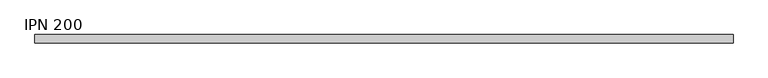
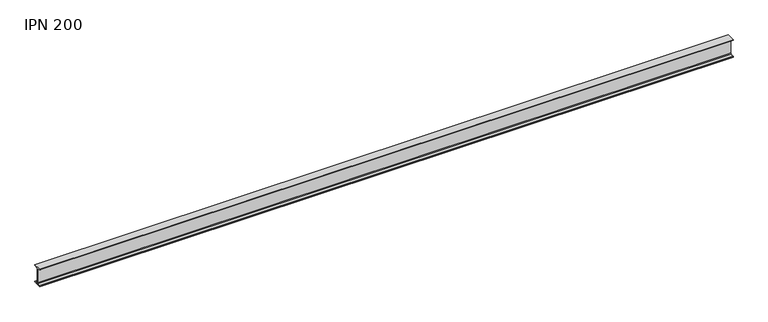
"""IFC4 building model written with IfcOpenShell, lengths in millimetres: beam geometry, IPN - Secciones en I con alas cónicas : IPN 200."""

import ifcopenshell
import ifcopenshell.guid

model = None  # the IFC model being written
_history = None  # IfcOwnerHistory: only IFC2X3 demands one
_inside = {}  # id of a spatial element -> (the spatial element, [elements in it])
_under = {}  # id of a project, library or spatial element -> (it, [spatial elements below it])
_declared = {}  # id of a project -> (the project, [libraries it declares])
_typed = {}  # id of a type object -> (the type object, [elements of that type])
_made_of = {}  # id of a material, layer set ... -> (it, [elements and type objects made of it])


def new_model(schema):
    """Start an empty IFC model of exactly this schema.

    Asked for "IFC4X3", IfcOpenShell would pick the latest addendum, in which some entities
    have other attributes; the version numbers below select the first issue.
    IFC2X3 requires an IfcOwnerHistory on every rooted entity: one is made here for all.
    """
    global model, _history
    if schema == "IFC4X3":
        model = ifcopenshell.file(schema_version=(4, 3, 0, 0))
    else:
        model = ifcopenshell.file(schema=schema)
    _inside.clear()
    _under.clear()
    _declared.clear()
    _typed.clear()
    _made_of.clear()
    _history = None
    if model.schema == "IFC2X3":
        org = make("IfcOrganization", Name="unknown")
        user = make(
            "IfcPersonAndOrganization",
            ThePerson=make("IfcPerson", FamilyName="unknown"),
            TheOrganization=org,
        )
        app = make(
            "IfcApplication",
            ApplicationDeveloper=org,
            Version="unknown",
            ApplicationFullName="unknown",
            ApplicationIdentifier="unknown",
        )
        _history = make(
            "IfcOwnerHistory",
            OwningUser=user,
            OwningApplication=app,
            ChangeAction="ADDED",
            CreationDate=0,
        )
    return model


def make(cls, **values):
    """One entity of the class cls with the attributes given. An attribute that is None is left unset."""
    return model.create_entity(
        cls, **{name: value for name, value in values.items() if value is not None}
    )


def rooted(cls, **values):
    """An entity with a GlobalId (a new one), such as an element, a storey or a relation."""
    return make(cls, GlobalId=ifcopenshell.guid.new(), OwnerHistory=_history, **values)


def si_unit(unit_type, name, prefix=None):
    """IfcSIUnit, for example si_unit("LENGTHUNIT", "METRE", prefix="MILLI")."""
    return make("IfcSIUnit", UnitType=unit_type, Prefix=prefix, Name=name)


def assignment(units):
    """IfcUnitAssignment: the units of a project."""
    return None if units is None else make("IfcUnitAssignment", Units=units)


def point(xyz):
    """IfcCartesianPoint."""
    return None if xyz is None else make("IfcCartesianPoint", Coordinates=xyz)


def direction(xyz):
    """IfcDirection."""
    return None if xyz is None else make("IfcDirection", DirectionRatios=xyz)


def frame(location, z_axis=None, x_axis=None):
    """IfcAxis2Placement3D, a coordinate frame: its origin and axes. An axis left out is left unset."""
    return make(
        "IfcAxis2Placement3D",
        Location=point(location),
        Axis=direction(z_axis),
        RefDirection=direction(x_axis),
    )


def frame_2d(location, x_axis=None):
    """IfcAxis2Placement2D, a coordinate frame in the plane: its origin and x axis."""
    return make(
        "IfcAxis2Placement2D", Location=point(location), RefDirection=direction(x_axis)
    )


def origin():
    """The frame at (0, 0, 0) with its axes left unset."""
    return frame((0.0, 0.0, 0.0))


def place(relative_to, where):
    """IfcLocalPlacement: puts the frame where relative to a parent placement (None: the world)."""
    return make(
        "IfcLocalPlacement", PlacementRelTo=relative_to, RelativePlacement=where
    )


def context(
    kind, dimensions, precision=None, world=None, true_north=None, identifier=None
):
    """IfcGeometricRepresentationContext, for example the 3D "Model" context."""
    return make(
        "IfcGeometricRepresentationContext",
        ContextIdentifier=identifier,
        ContextType=kind,
        CoordinateSpaceDimension=dimensions,
        Precision=precision,
        WorldCoordinateSystem=world,
        TrueNorth=true_north,
    )


def project(units=None, contexts=None):
    """IfcProject with its units and contexts."""
    return rooted(
        "IfcProject",
        Name="project",
        RepresentationContexts=contexts,
        UnitsInContext=assignment(units),
    )


def spatial(cls, under=None, at=None, **own):
    """A site, building, storey or space (cls), placed at a placement, below another one or the project."""
    s = rooted(cls, ObjectPlacement=at, **own)
    if under is not None:
        _under.setdefault(under.id(), (under, []))[1].append(s)
    return s


def polyline(points):
    """IfcPolyline through the points."""
    return make("IfcPolyline", Points=[point(p) for p in points])


def circle_curve(where, radius):
    """IfcCircle in the frame where."""
    return make("IfcCircle", Position=where, Radius=radius)


def trimmed(basis, trim1, trim2, sense, master):
    """IfcTrimmedCurve: the piece of a basis curve between two trims."""
    return make(
        "IfcTrimmedCurve",
        BasisCurve=basis,
        Trim1=trim1,
        Trim2=trim2,
        SenseAgreement=sense,
        MasterRepresentation=master,
    )


def segment(curve, same_sense, transition):
    """IfcCompositeCurveSegment."""
    return make(
        "IfcCompositeCurveSegment",
        Transition=transition,
        SameSense=same_sense,
        ParentCurve=curve,
    )


def composite_curve(segments, self_intersect=None):
    """IfcCompositeCurve: segments joined end to end."""
    return make("IfcCompositeCurve", Segments=segments, SelfIntersect=self_intersect)


def outline(outer, holes=None, kind="AREA"):
    """IfcArbitraryClosedProfileDef: a profile drawn as a closed curve; with holes, ...WithVoids."""
    if holes is None:
        return make("IfcArbitraryClosedProfileDef", ProfileType=kind, OuterCurve=outer)
    return make(
        "IfcArbitraryProfileDefWithVoids",
        ProfileType=kind,
        OuterCurve=outer,
        InnerCurves=holes,
    )


def extrude(swept, where, along, depth):
    """IfcExtrudedAreaSolid: the profile swept, set in the frame where, extruded along a direction by depth."""
    return make(
        "IfcExtrudedAreaSolid",
        SweptArea=swept,
        Position=where,
        ExtrudedDirection=direction(along),
        Depth=depth,
    )


def shape(context_of_items, identifier, shape_type, items):
    """IfcShapeRepresentation: the items that make up one representation, for example the "Body"."""
    return make(
        "IfcShapeRepresentation",
        ContextOfItems=context_of_items,
        RepresentationIdentifier=identifier,
        RepresentationType=shape_type,
        Items=items,
    )


def source(mapping_origin, context_of_items, identifier, shape_type, items):
    """IfcRepresentationMap: a shape defined once, which mapped items show again and again."""
    return make(
        "IfcRepresentationMap",
        MappingOrigin=mapping_origin,
        MappedRepresentation=shape(context_of_items, identifier, shape_type, items),
    )


def transform(
    local_origin,
    x_axis=None,
    y_axis=None,
    z_axis=None,
    scale=None,
    scale2=None,
    scale3=None,
    uniform=True,
):
    """IfcCartesianTransformationOperator3D, or its non-uniform kind. x_axis, y_axis, z_axis: its Axis1, 2, 3."""
    if uniform:
        return make(
            "IfcCartesianTransformationOperator3D",
            Axis1=direction(x_axis),
            Axis2=direction(y_axis),
            LocalOrigin=point(local_origin),
            Scale=scale,
            Axis3=direction(z_axis),
        )
    return make(
        "IfcCartesianTransformationOperator3DnonUniform",
        Axis1=direction(x_axis),
        Axis2=direction(y_axis),
        LocalOrigin=point(local_origin),
        Scale=scale,
        Axis3=direction(z_axis),
        Scale2=scale2,
        Scale3=scale3,
    )


def mapped(mapping_source, mapping_target):
    """IfcMappedItem: shows the shape of a source again, moved by a transform."""
    return make(
        "IfcMappedItem", MappingSource=mapping_source, MappingTarget=mapping_target
    )


def made_of(thing, what):
    """Note that an element or type object is made of a material, layer set ...; save() writes the relation."""
    if what is not None:
        _made_of.setdefault(what.id(), (what, []))[1].append(thing)
    return thing


def element(
    cls,
    number,
    at=None,
    inside=None,
    cuts=None,
    type_object=None,
    material=None,
    context=None,
    identifier="Body",
    shape_type=None,
    held_by="IfcProductDefinitionShape",
    body=None,
    shapes=None,
    **own,
):
    """One element of the class cls, such as IfcWall. Its Tag is "e" and its number.

    at: its placement. inside: the storey or other place that contains it. cuts: it is an
    opening in that element (IfcRelVoidsElement). A single representation is given by context,
    identifier, shape_type and body (its items); several are given by shapes. held_by: the class
    of the entity that holds the representations. save() writes the other relations.
    """
    e = rooted(cls, Tag="e%d" % number, ObjectPlacement=at, **own)
    if body is not None:
        shapes = [shape(context, identifier, shape_type, body)]
    if shapes is not None:
        e.Representation = make(held_by, Representations=shapes)
    if inside is not None:
        _inside.setdefault(inside.id(), (inside, []))[1].append(e)
    if cuts is not None:
        rooted(
            "IfcRelVoidsElement", RelatingBuildingElement=cuts, RelatedOpeningElement=e
        )
    if type_object is not None:
        _typed.setdefault(type_object.id(), (type_object, []))[1].append(e)
    return made_of(e, material)


def aggregate(whole, parts):
    """IfcRelAggregates: a whole, such as a stair, and the parts it consists of."""
    return rooted("IfcRelAggregates", RelatingObject=whole, RelatedObjects=parts)


def save(model, path):
    """Write the relations noted so far, then the file.

    IfcRelAggregates (storeys below a building ...), IfcRelContainedInSpatialStructure (elements
    in a storey), IfcRelDefinesByType, IfcRelAssociatesMaterial and IfcRelDeclares: one each for
    every whole, place, type object, material and project.
    """
    for whole, parts in _under.values():
        aggregate(whole, parts)
    for where, things in _inside.values():
        rooted(
            "IfcRelContainedInSpatialStructure",
            RelatedElements=things,
            RelatingStructure=where,
        )
    for kind, things in _typed.values():
        rooted("IfcRelDefinesByType", RelatedObjects=things, RelatingType=kind)
    for what, things in _made_of.values():
        rooted("IfcRelAssociatesMaterial", RelatedObjects=things, RelatingMaterial=what)
    for by, libraries in _declared.values():
        rooted("IfcRelDeclares", RelatingContext=by, RelatedDefinitions=libraries)
    model.write(path)


def ipn_200_907417d8(model_context):
    return source(origin(), model_context, "Body", "SweptSolid", [
        extrude(outline(composite_curve([segment(polyline([(45.0, 100.0), (45.0, 95.763886)]), True, "CONTINUOUS"), segment(trimmed(circle_curve(frame_2d((40.5, 95.763886)), 4.5), [point((45.0, 95.763886))], [point((41.1239153, 91.3073481))], False, "CARTESIAN"), True, "CONTINUOUS"), segment(polyline([(41.1239153, 91.3073481), (10.2101412, 86.9794198)]), True, "CONTINUOUS"), segment(trimmed(circle_curve(frame_2d((11.25, 79.5518567)), 7.5), [point((10.2101412, 86.9794198))], [point((3.75, 79.5518567))], True, "CARTESIAN"), True, "CONTINUOUS"), segment(polyline([(3.75, 79.5518567), (3.75, -79.5518567)]), True, "CONTINUOUS"), segment(trimmed(circle_curve(frame_2d((11.25, -79.5518567)), 7.5), [point((3.75, -79.5518567))], [point((10.2101412, -86.9794198))], True, "CARTESIAN"), True, "CONTINUOUS"), segment(polyline([(10.2101412, -86.9794198), (41.1239153, -91.3073481)]), True, "CONTINUOUS"), segment(trimmed(circle_curve(frame_2d((40.5, -95.763886)), 4.5), [point((41.1239153, -91.3073481))], [point((45.0, -95.763886))], False, "CARTESIAN"), True, "CONTINUOUS"), segment(polyline([(45.0, -95.763886), (45.0, -100.0), (-45.0, -100.0), (-45.0, -95.763886)]), True, "CONTINUOUS"), segment(trimmed(circle_curve(frame_2d((-40.5, -95.763886)), 4.5), [point((-45.0, -95.763886))], [point((-41.1239153, -91.3073481))], False, "CARTESIAN"), True, "CONTINUOUS"), segment(polyline([(-41.1239153, -91.3073481), (-10.2101412, -86.9794198)]), True, "CONTINUOUS"), segment(trimmed(circle_curve(frame_2d((-11.25, -79.5518567)), 7.5), [point((-10.2101412, -86.9794198))], [point((-3.75, -79.5518567))], True, "CARTESIAN"), True, "CONTINUOUS"), segment(polyline([(-3.75, -79.5518567), (-3.75, 79.5518567)]), True, "CONTINUOUS"), segment(trimmed(circle_curve(frame_2d((-11.25, 79.5518567)), 7.5), [point((-3.75, 79.5518567))], [point((-10.2101412, 86.9794198))], True, "CARTESIAN"), True, "CONTINUOUS"), segment(polyline([(-10.2101412, 86.9794198), (-41.1239153, 91.3073481)]), True, "CONTINUOUS"), segment(trimmed(circle_curve(frame_2d((-40.5, 95.763886)), 4.5), [point((-41.1239153, 91.3073481))], [point((-45.0, 95.763886))], False, "CARTESIAN"), True, "CONTINUOUS"), segment(polyline([(-45.0, 95.763886), (-45.0, 100.0), (45.0, 100.0)]), True, "CONTINUOUS")], self_intersect=False)), frame((-3780.0, 0.0, 0.0), z_axis=(1.0, 0.0, 0.0), x_axis=(0.0, 1.0, 0.0)), (0.0, 0.0, 1.0), 7515.2273117),
    ])


if __name__ == "__main__":
    model = new_model("IFC4")
    model_context = context("Model", 3, world=origin())
    ifc_project = project(units=[si_unit("LENGTHUNIT", "METRE", prefix="MILLI")], contexts=[model_context])
    site = spatial("IfcSite", under=ifc_project)
    building = spatial("IfcBuilding", under=site)
    placement = place(None, origin())
    ipn_200_shape = ipn_200_907417d8(model_context)
    element("IfcBeam", 1, ObjectType="IPN - Secciones en I con alas cónicas : IPN 200", at=placement, inside=building, context=model_context, shape_type="MappedRepresentation", body=[
        mapped(ipn_200_shape, transform((0.0, 0.0, 0.0), x_axis=(1.0, 0.0, 0.0), y_axis=(0.0, 1.0, 0.0), z_axis=(0.0, 0.0, 1.0))),
    ])
    save(model, "model.ifc")
